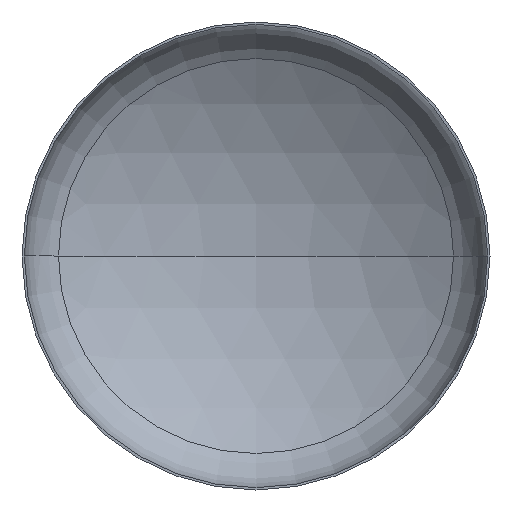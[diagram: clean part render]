
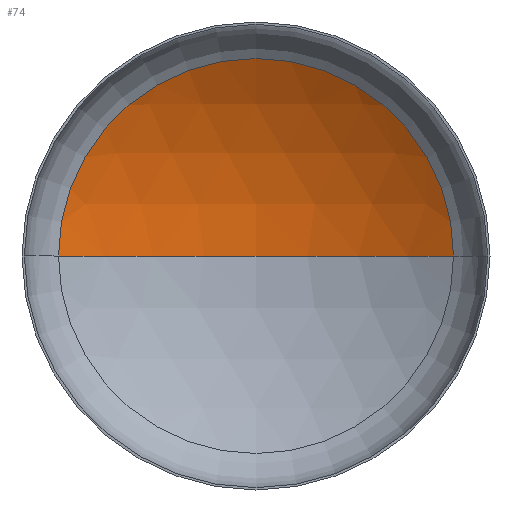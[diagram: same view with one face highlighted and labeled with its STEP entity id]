
A CAD part, front view. The second image highlights one B-rep face of the part: STEP entity #74.
In plain terms, the highlighted spherical face has radius 2720 mm.
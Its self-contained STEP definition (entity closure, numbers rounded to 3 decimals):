
#5 = VERTEX_POINT ( 'NONE', #341 ) ;
#9 = DIRECTION ( 'NONE',  ( 1., 0., 0. ) ) ;
#19 = ORIENTED_EDGE ( 'NONE', *, *, #176, .F. ) ;
#28 = CIRCLE ( 'NONE', #80, 1434.97 ) ;
#45 = ORIENTED_EDGE ( 'NONE', *, *, #146, .T. ) ;
#55 = FACE_OUTER_BOUND ( 'NONE', #307, .T. ) ;
#65 = CARTESIAN_POINT ( 'NONE',  ( 0., 500.996, 0. ) ) ;
#69 = CIRCLE ( 'NONE', #76, 2720. ) ;
#73 = AXIS2_PLACEMENT_3D ( 'NONE', #196, #199, #195 ) ;
#74 = ADVANCED_FACE ( 'NONE', ( #55 ), #206, .F. ) ;
#76 = AXIS2_PLACEMENT_3D ( 'NONE', #192, #358, #158 ) ;
#80 = AXIS2_PLACEMENT_3D ( 'NONE', #65, #244, #9 ) ;
#105 = AXIS2_PLACEMENT_3D ( 'NONE', #267, #241, #277 ) ;
#146 = EDGE_CURVE ( 'NONE', #293, #234, #28, .T. ) ;
#151 = ORIENTED_EDGE ( 'NONE', *, *, #155, .T. ) ;
#155 = EDGE_CURVE ( 'NONE', #5, #293, #69, .T. ) ;
#158 = DIRECTION ( 'NONE',  ( -1., 0., 0. ) ) ;
#160 = CARTESIAN_POINT ( 'NONE',  ( 1434.97, 500.996, 0. ) ) ;
#176 = EDGE_CURVE ( 'NONE', #5, #234, #304, .T. ) ;
#192 = CARTESIAN_POINT ( 'NONE',  ( 0., -1809.688, 0. ) ) ;
#195 = DIRECTION ( 'NONE',  ( 1., 0., 0. ) ) ;
#196 = CARTESIAN_POINT ( 'NONE',  ( 0., -1809.688, 0. ) ) ;
#199 = DIRECTION ( 'NONE',  ( 0., 0., 1. ) ) ;
#206 = SPHERICAL_SURFACE ( 'NONE', #105, 2720. ) ;
#234 = VERTEX_POINT ( 'NONE', #235 ) ;
#235 = CARTESIAN_POINT ( 'NONE',  ( -1434.97, 500.996, 0. ) ) ;
#241 = DIRECTION ( 'NONE',  ( 0., 0., -1. ) ) ;
#244 = DIRECTION ( 'NONE',  ( 0., -1., 0. ) ) ;
#267 = CARTESIAN_POINT ( 'NONE',  ( 0., -1809.688, 0. ) ) ;
#277 = DIRECTION ( 'NONE',  ( -1., 0., 0. ) ) ;
#293 = VERTEX_POINT ( 'NONE', #160 ) ;
#304 = CIRCLE ( 'NONE', #73, 2720. ) ;
#307 = EDGE_LOOP ( 'NONE', ( #19, #151, #45 ) ) ;
#341 = CARTESIAN_POINT ( 'NONE',  ( 0., 910.312, 0. ) ) ;
#358 = DIRECTION ( 'NONE',  ( 0., 0., -1. ) ) ;
